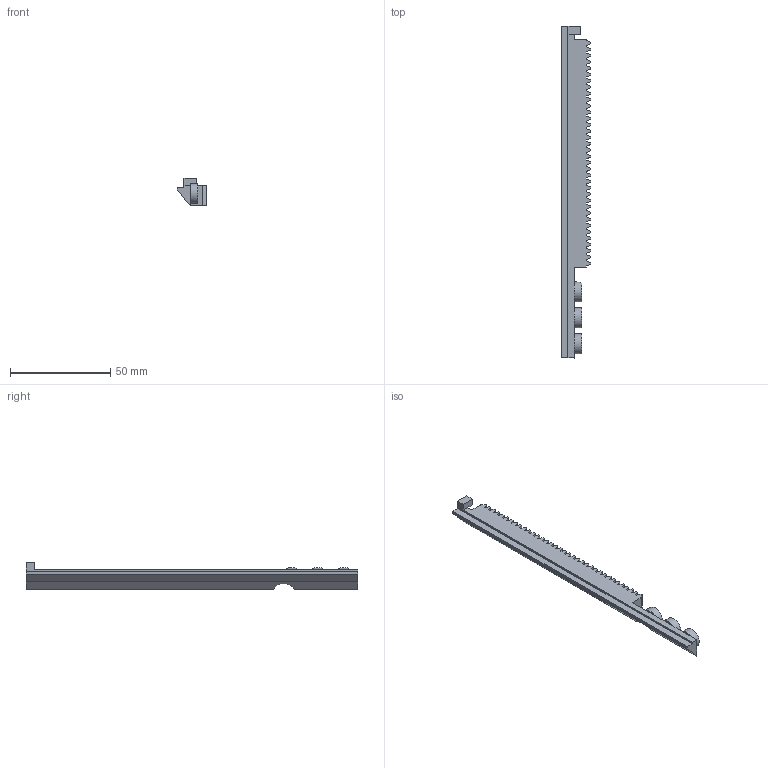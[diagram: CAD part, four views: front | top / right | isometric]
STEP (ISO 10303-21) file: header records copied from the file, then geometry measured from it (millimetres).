
FILE_DESCRIPTION(('Open CASCADE Model'),'2;1');
FILE_NAME('Open CASCADE Shape Model','2026-10-18T02:27:58',('Author'),( 'Open CASCADE'),'Open CASCADE STEP processor 7.9','Open CASCADE 7.9' ,'Unknown');
FILE_SCHEMA(('AUTOMOTIVE_DESIGN { 1 0 10303 214 1 1 1 1 }'));
Length unit declared in the file: millimetre
Products named in the file (1): Open CASCADE STEP translator 7.9 21
Bounding box: 14.85 x 165.6 x 13.5 mm (x, y, z)
Volume: 14937.6 mm3; surface area: 8410.9 mm2
Topology: 1 solids, 1 shells, 181 faces, 530 edges, 353 vertices
Faces by surface type: plane 174, cylinder 7
Full cylindrical faces by diameter (mm): 3.3 x3, 10 x2
Entity records: 13108 total; most frequent: CARTESIAN_POINT 2536, DIRECTION 1929, LINE 1494, VECTOR 1494, ORIENTED_EDGE 1060, PCURVE 1060, DEFINITIONAL_REPRESENTATION 1060, EDGE_CURVE 530
